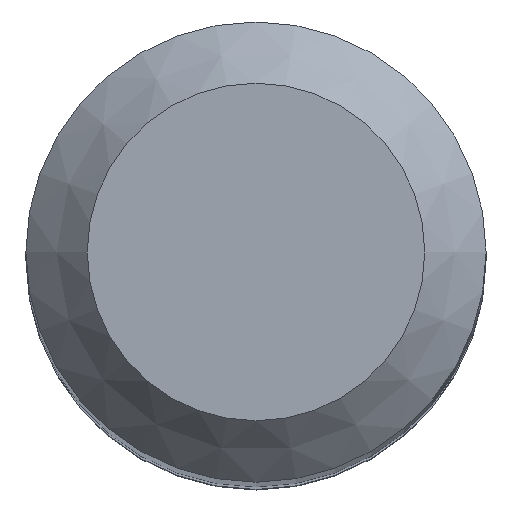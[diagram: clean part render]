
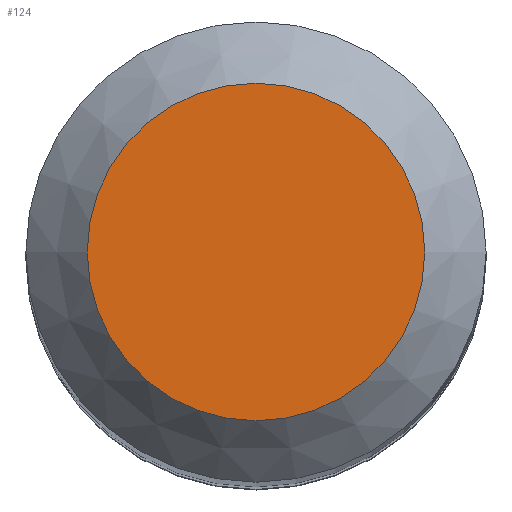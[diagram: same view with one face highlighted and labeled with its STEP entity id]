
A CAD part, top view. The second image highlights one B-rep face of the part: STEP entity #124.
In plain terms, the highlighted planar face has unit normal (0, 0, 1).
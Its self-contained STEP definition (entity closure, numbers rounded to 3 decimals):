
#108=CARTESIAN_POINT('',(2.2,0.0,60.0));
#109=DIRECTION('',(0.0,0.0,1.0));
#110=DIRECTION('',(1.0,0.0,0.0));
#111=AXIS2_PLACEMENT_3D('',#108,#109,#110);
#112=PLANE('',#111);
#113=CARTESIAN_POINT('',(-2.2,0.0,60.0));
#114=VERTEX_POINT('',#113);
#115=CARTESIAN_POINT('',(0.0,0.0,60.0));
#116=DIRECTION('',(0.0,0.0,-1.0));
#117=DIRECTION('',(-1.0,0.0,0.0));
#118=AXIS2_PLACEMENT_3D('',#115,#116,#117);
#119=CIRCLE('',#118,2.2);
#120=EDGE_CURVE('',#114,#114,#119,.T.);
#121=ORIENTED_EDGE('',*,*,#120,.F.);
#122=EDGE_LOOP('',(#121));
#123=FACE_OUTER_BOUND('',#122,.T.);
#124=ADVANCED_FACE('',(#123),#112,.T.);
